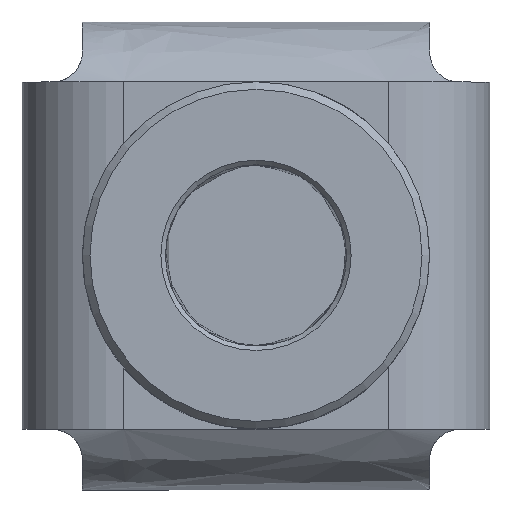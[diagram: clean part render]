
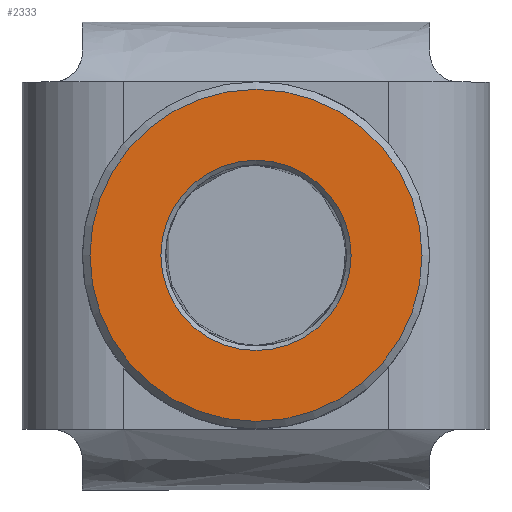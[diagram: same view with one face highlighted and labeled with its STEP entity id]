
A CAD part, top view. The second image highlights one B-rep face of the part: STEP entity #2333.
In plain terms, the highlighted planar face has unit normal (0, 0, 1).
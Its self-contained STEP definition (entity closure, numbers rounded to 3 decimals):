
#2291=CARTESIAN_POINT('',(9.526,-5.5,18.45));
#2292=VERTEX_POINT('',#2291);
#2293=CARTESIAN_POINT('',(0.,0.,18.45));
#2294=DIRECTION('',(0.0,0.0,-1.0));
#2295=DIRECTION('',(-0.866,0.5,0.0));
#2296=AXIS2_PLACEMENT_3D('',#2293,#2294,#2295);
#2297=CIRCLE('',#2296,11.);
#2298=EDGE_CURVE('',#2292,#2292,#2297,.T.);
#2314=CARTESIAN_POINT('',(0.,0.,18.45));
#2315=DIRECTION('',(0.0,0.0,-1.0));
#2316=DIRECTION('',(-0.866,0.5,0.0));
#2317=AXIS2_PLACEMENT_3D('',#2314,#2315,#2316);
#2318=PLANE('',#2317);
#2319=ORIENTED_EDGE('',*,*,#2298,.F.);
#2320=EDGE_LOOP('',(#2319));
#2321=FACE_OUTER_BOUND('',#2320,.T.);
#2322=CARTESIAN_POINT('',(5.456,-3.15,18.45));
#2323=VERTEX_POINT('',#2322);
#2324=CARTESIAN_POINT('',(0.,0.,18.45));
#2325=DIRECTION('',(0.0,0.0,1.0));
#2326=DIRECTION('',(-0.866,0.5,0.0));
#2327=AXIS2_PLACEMENT_3D('',#2324,#2325,#2326);
#2328=CIRCLE('',#2327,6.3);
#2329=EDGE_CURVE('',#2323,#2323,#2328,.T.);
#2330=ORIENTED_EDGE('',*,*,#2329,.F.);
#2331=EDGE_LOOP('',(#2330));
#2332=FACE_BOUND('',#2331,.T.);
#2333=ADVANCED_FACE('',(#2321,#2332),#2318,.F.);
